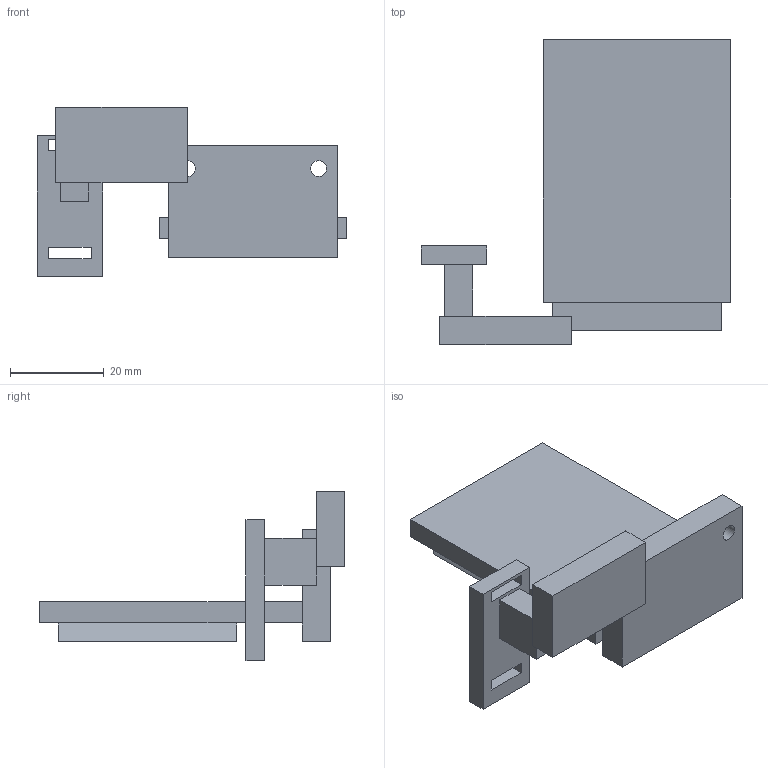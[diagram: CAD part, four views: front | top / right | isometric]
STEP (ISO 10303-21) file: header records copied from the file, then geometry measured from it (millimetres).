
FILE_DESCRIPTION(('Open CASCADE Model'),'2;1');
FILE_NAME('Open CASCADE Shape Model','2026-10-21T12:04:47',('Author'),( 'Open CASCADE'),'Open CASCADE STEP processor 7.9','Open CASCADE 7.9' ,'Unknown');
FILE_SCHEMA(('AUTOMOTIVE_DESIGN { 1 0 10303 214 1 1 1 1 }'));
Length unit declared in the file: millimetre
Products named in the file (1): Open CASCADE STEP translator 7.9 29
Bounding box: 66 x 65 x 36 mm (x, y, z)
Volume: 22352.7 mm3; surface area: 11528.9 mm2
Topology: 1 solids, 1 shells, 52 faces, 138 edges, 90 vertices
Faces by surface type: plane 50, cylinder 2
Full cylindrical faces by diameter (mm): 3.4 x2
Entity records: 3418 total; most frequent: CARTESIAN_POINT 593, DIRECTION 520, LINE 402, VECTOR 402, ORIENTED_EDGE 276, PCURVE 276, DEFINITIONAL_REPRESENTATION 276, EDGE_CURVE 138
